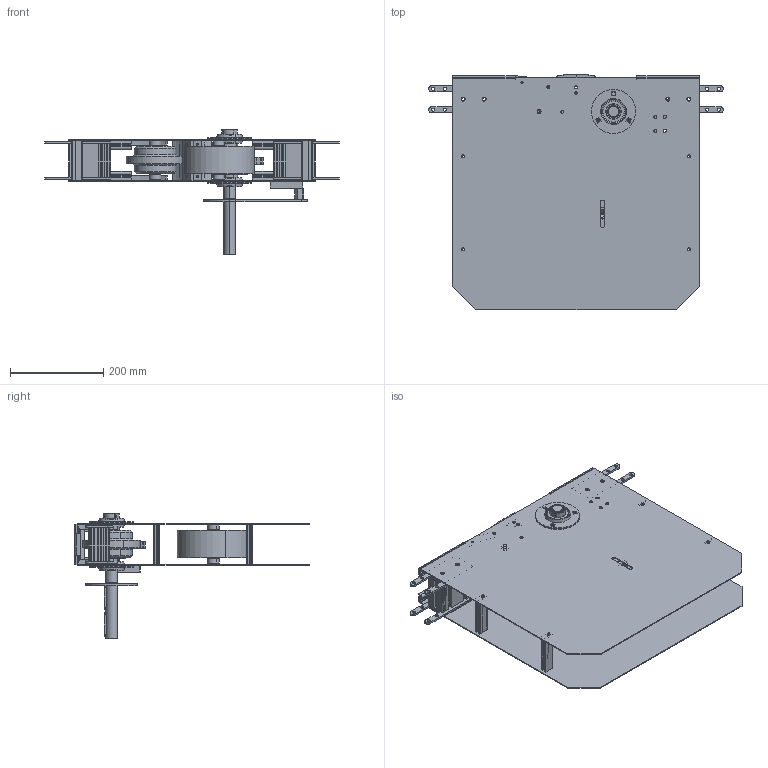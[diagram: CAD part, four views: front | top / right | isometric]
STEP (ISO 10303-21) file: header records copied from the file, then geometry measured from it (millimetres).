
FILE_DESCRIPTION (( 'STEP AP203' ), '1' );
FILE_NAME ('2000.325.663.STEP', '2018-03-12T09:03:06', ( '' ), ( '' ), 'SwSTEP 2.0', 'SolidWorks 2016', '' );
FILE_SCHEMA (( 'CONFIG_CONTROL_DESIGN' ));
Length unit declared in the file: millimetre
Products named in the file (22): 084.808.005-1; 2000.325.102; RUOTE DI TRAINO NS880_NS880T12R25; 2000.325.602; 2000.325.605_Default<A macchina>; 2000.325.201-1; 2000.325.616; CHIAVETTE_A 8x7x50 UNI 6604-69; 2000.325.606_Default<A macchina>; 2000.325.603; 2000.325.601; 2000.001.011; 2000.001.402; SBPF205; 2000.325.429_Default<A macchina>; 2000.325.003; 675582; 2000.001.903; 084.802.027; 2000.325.604; 2000.325.608; 2000.325.663
Assembly tree (42 placements, depth 2):
  2000.325.663
    2000.001.903
    084.802.027
    2000.325.201-1  x2
    SBPF205  x2
    RUOTE DI TRAINO NS880_NS880T12R25
    2000.325.603
    2000.325.608
    2000.001.402  x4
    2000.325.429_Default<A macchina>  x2
    2000.325.604
    2000.325.003  x2
    675582  x2
    2000.325.601  x4
    2000.325.606_Default<A macchina>  x4
    2000.325.602  x2
    2000.325.605_Default<A macchina>  x4
    084.808.005-1
    2000.001.011
    2000.325.102
    CHIAVETTE_A 8x7x50 UNI 6604-69  x3
    2000.325.616  x2
Bounding box: 633 x 506.5 x 270.5 mm (x, y, z)
Volume: 3807901.4 mm3; surface area: 1767476.4 mm2
Topology: 40 solids, 46 shells, 2284 faces, 5707 edges, 3650 vertices
Faces by surface type: cylinder 1124, plane 878, torus 176, cone 74, bspline 32
Entity records: 46488 total; most frequent: CARTESIAN_POINT 8225, DIRECTION 8008, ORIENTED_EDGE 6988, EDGE_CURVE 3496, AXIS2_PLACEMENT_3D 3135, VERTEX_POINT 2204, LINE 1738, VECTOR 1738
